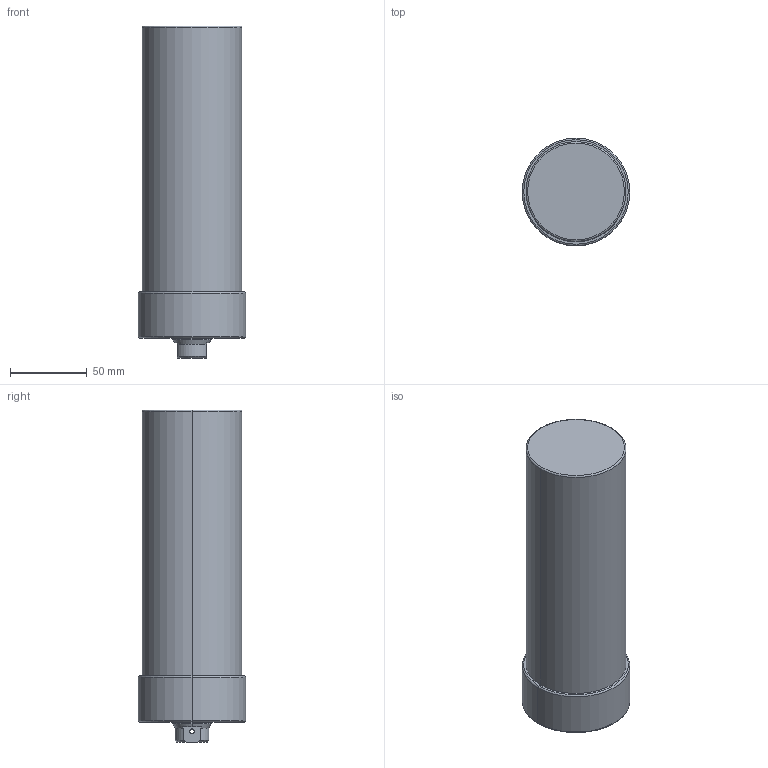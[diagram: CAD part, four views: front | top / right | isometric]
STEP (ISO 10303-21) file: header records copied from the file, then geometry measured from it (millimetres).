
FILE_DESCRIPTION (( 'STEP AP203' ), '1' );
FILE_NAME ('CLLU-065GB-140.STEP', '2020-01-07T06:48:50', ( '' ), ( '' ), 'SwSTEP 2.0', 'SolidWorks 2015', '' );
FILE_SCHEMA (( 'CONFIG_CONTROL_DESIGN' ));
Length unit declared in the file: millimetre
Products named in the file (1): CLLU-065GB-140
Bounding box: 70 x 70 x 216 mm (x, y, z)
Volume: 689892.1 mm3; surface area: 52408.5 mm2
Topology: 1 solids, 1 shells, 66 faces, 154 edges, 87 vertices
Faces by surface type: cylinder 26, cone 24, plane 10, torus 6
Entity records: 2001 total; most frequent: CARTESIAN_POINT 430, DIRECTION 342, ORIENTED_EDGE 288, EDGE_CURVE 144, AXIS2_PLACEMENT_3D 143, VERTEX_POINT 87, EDGE_LOOP 77, CIRCLE 76
